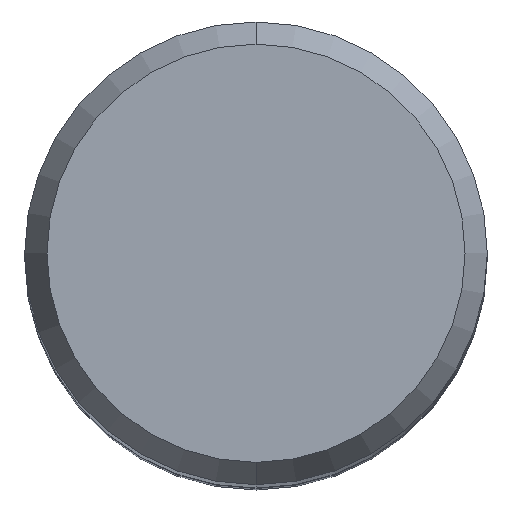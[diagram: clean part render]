
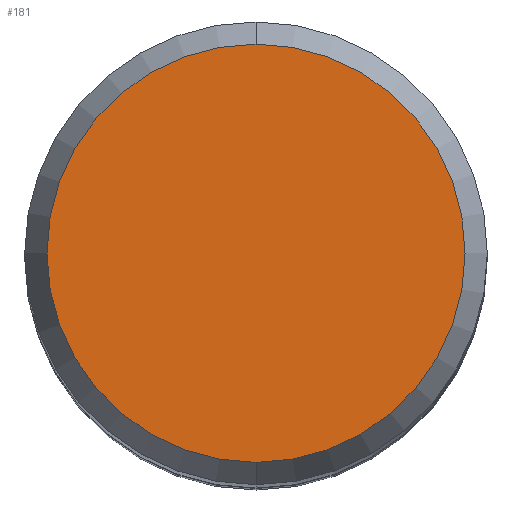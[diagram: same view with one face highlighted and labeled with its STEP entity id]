
A CAD part, top view. The second image highlights one B-rep face of the part: STEP entity #181.
In plain terms, the highlighted planar face has unit normal (0, 0, 1).
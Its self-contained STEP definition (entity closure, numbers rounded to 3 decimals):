
#181=ADVANCED_FACE('',(#496),#497,.T.);
#183=EDGE_CURVE('',#243,#467,#499,.T.);
#243=VERTEX_POINT('',#564);
#391=EDGE_CURVE('',#467,#243,#730,.T.);
#467=VERTEX_POINT('',#814);
#496=FACE_OUTER_BOUND('',#836,.T.);
#497=PLANE('',#837);
#499=CIRCLE('',#840,5.423);
#564=CARTESIAN_POINT('',(0.0,5.423,0.0));
#730=CIRCLE('',#1362,5.423);
#814=CARTESIAN_POINT('',(0.,-5.423,0.0));
#836=EDGE_LOOP('',(#1543,#1544));
#837=AXIS2_PLACEMENT_3D('',#1545,#1546,#1547);
#840=AXIS2_PLACEMENT_3D('',#1548,#1549,#1550);
#1362=AXIS2_PLACEMENT_3D('',#1806,#1807,#1808);
#1543=ORIENTED_EDGE('',*,*,#183,.F.);
#1544=ORIENTED_EDGE('',*,*,#391,.F.);
#1545=CARTESIAN_POINT('',(0.0,2.711,0.0));
#1546=DIRECTION('',(-0.0,0.0,1.0));
#1547=DIRECTION('',(0.0,-1.0,0.0));
#1548=CARTESIAN_POINT('',(0.0,0.0,0.0));
#1549=DIRECTION('',(0.0,0.0,-1.0));
#1550=DIRECTION('',(0.0,1.0,0.0));
#1806=CARTESIAN_POINT('',(0.0,0.0,0.0));
#1807=DIRECTION('',(0.0,0.0,-1.0));
#1808=DIRECTION('',(0.0,1.0,0.0));
